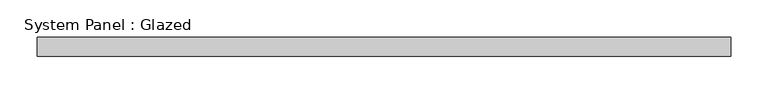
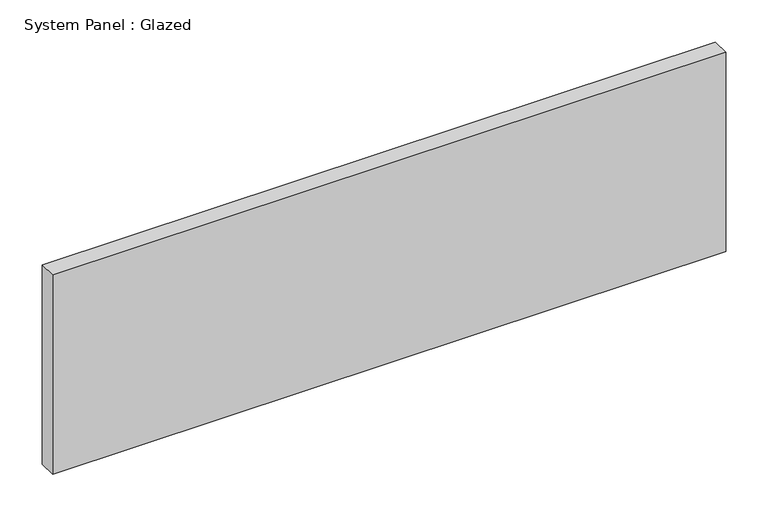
"""IFC4 building model written with IfcOpenShell, lengths in millimetres: plate geometry, System Panel : Glazed."""

from ifc_helpers import new_model, si_unit, origin, origin_with_axes, place, context, project, spatial, polyline, outline, extrude, source, transform, mapped, element, save


def system_panel_glazed_1821110c(model_context):
    return source(origin(), model_context, "Body", "SweptSolid", [
        extrude(outline(polyline([(462.5, 24.5), (-462.5, 24.5), (-462.5, 49.5), (462.5, 49.5), (462.5, 24.5)])), origin_with_axes(), (0.0, 0.0, 1.0), 289.7256931),
    ])


if __name__ == "__main__":
    model = new_model("IFC4")
    model_context = context("Model", 3, world=origin())
    ifc_project = project(units=[si_unit("LENGTHUNIT", "METRE", prefix="MILLI")], contexts=[model_context])
    site = spatial("IfcSite", under=ifc_project)
    building = spatial("IfcBuilding", under=site)
    placement = place(None, origin())
    system_panel_glazed_shape = system_panel_glazed_1821110c(model_context)
    element("IfcPlate", 1, ObjectType="System Panel : Glazed", at=placement, inside=building, context=model_context, shape_type="MappedRepresentation", body=[
        mapped(system_panel_glazed_shape, transform((0.0, 0.0, 0.0), x_axis=(1.0, 0.0, 0.0), y_axis=(0.0, 1.0, 0.0), z_axis=(0.0, 0.0, 1.0))),
    ])
    save(model, "model.ifc")
